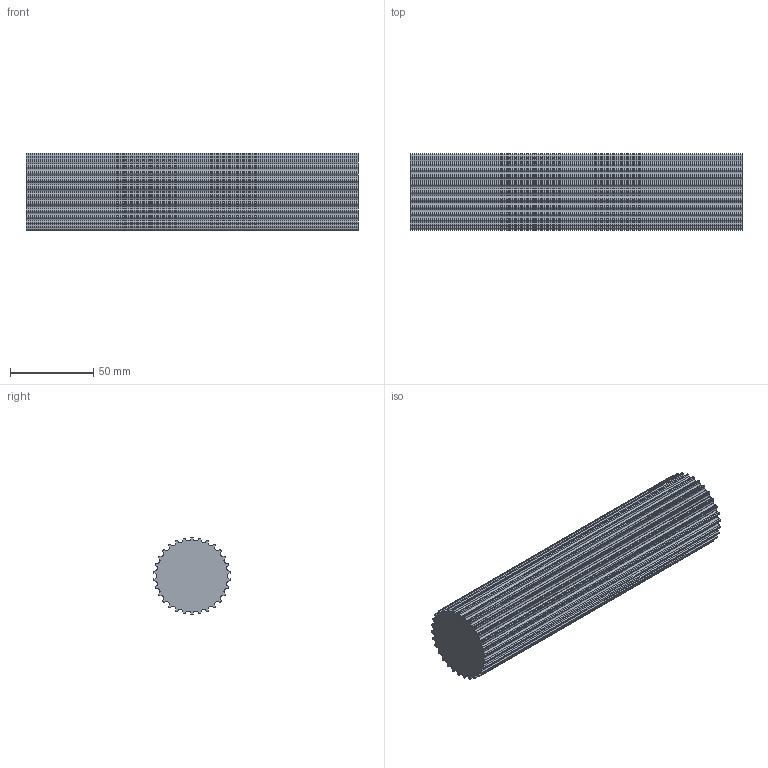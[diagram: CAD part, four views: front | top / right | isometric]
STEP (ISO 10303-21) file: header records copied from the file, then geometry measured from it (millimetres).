
FILE_DESCRIPTION( ( 'STEP AP214' ), '1' );
FILE_NAME( 'C:/Users/StangenbergN/Documents/CAD_Step/1/17293000.stp', '2019-08-23T07:23:37', ( '' ), ( '' ), ' ', 'PARTsolutions', ' ' );
FILE_SCHEMA( ( 'AUTOMOTIVE_DESIGN { 1 0 10303 214 1 1 1 1 }' ) );
Length unit declared in the file: millimetre
Products named in the file (1): _17293000
Bounding box: 200 x 46.38 x 46.6 mm (x, y, z)
Volume: 306652 mm3; surface area: 43751.2 mm2
Topology: 1 solids, 1 shells, 242 faces, 720 edges, 480 vertices
Faces by surface type: cylinder 150, plane 92
Entity records: 10196 total; most frequent: DIRECTION 1506, CARTESIAN_POINT 1443, ORIENTED_EDGE 1440, EDGE_CURVE 720, AXIS2_PLACEMENT_3D 543, VERTEX_POINT 480, LINE 420, VECTOR 420
